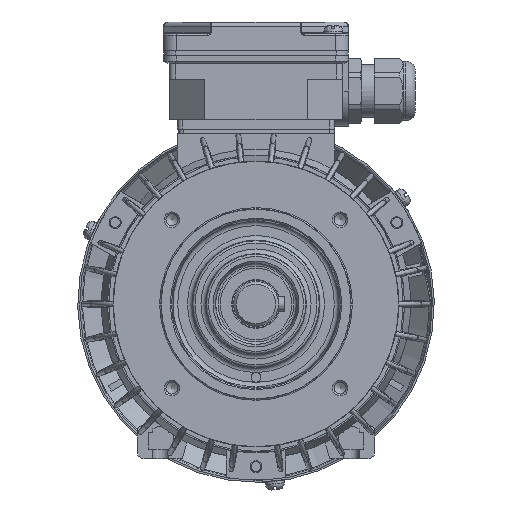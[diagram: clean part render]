
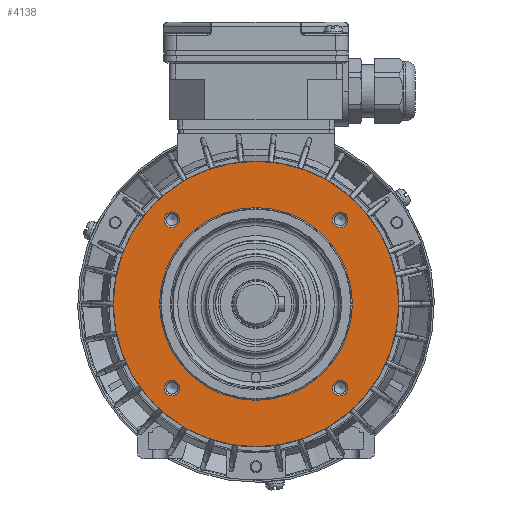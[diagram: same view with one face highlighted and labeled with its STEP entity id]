
A CAD part, left-side view. The second image highlights one B-rep face of the part: STEP entity #4138.
In plain terms, the highlighted planar face has unit normal (-1, 0, 0) as drawn and (0, -1, 0) by its records, which use the part's own axes.
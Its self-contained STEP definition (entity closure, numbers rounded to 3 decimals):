
#4138 = ADVANCED_FACE( '', ( #9790, #9791, #9792, #9793, #9794, #9795 ), #9796, .T. );
#9790 = FACE_BOUND( '', #23040, .T. );
#9791 = FACE_BOUND( '', #23041, .T. );
#9792 = FACE_BOUND( '', #23042, .T. );
#9793 = FACE_BOUND( '', #23043, .T. );
#9794 = FACE_BOUND( '', #23044, .T. );
#9795 = FACE_OUTER_BOUND( '', #23045, .T. );
#9796 = PLANE( '', #23046 );
#23040 = EDGE_LOOP( '', ( #50564 ) );
#23041 = EDGE_LOOP( '', ( #50565 ) );
#23042 = EDGE_LOOP( '', ( #50566 ) );
#23043 = EDGE_LOOP( '', ( #50567 ) );
#23044 = EDGE_LOOP( '', ( #50568 ) );
#23045 = EDGE_LOOP( '', ( #50569 ) );
#23046 = AXIS2_PLACEMENT_3D( '', #50570, #50571, #50572 );
#50564 = ORIENTED_EDGE( '', *, *, #70502, .T. );
#50565 = ORIENTED_EDGE( '', *, *, #70503, .T. );
#50566 = ORIENTED_EDGE( '', *, *, #70504, .T. );
#50567 = ORIENTED_EDGE( '', *, *, #70505, .T. );
#50568 = ORIENTED_EDGE( '', *, *, #69899, .T. );
#50569 = ORIENTED_EDGE( '', *, *, #70506, .T. );
#50570 = CARTESIAN_POINT( '', ( 0., 3., 40. ) );
#50571 = DIRECTION( '', ( 0., -1., 0. ) );
#50572 = DIRECTION( '', ( 0., 0., -1. ) );
#69899 = EDGE_CURVE( '', #82010, #82010, #82011, .F. );
#70502 = EDGE_CURVE( '', #82959, #82959, #82960, .F. );
#70503 = EDGE_CURVE( '', #82961, #82961, #82962, .F. );
#70504 = EDGE_CURVE( '', #82963, #82963, #82964, .F. );
#70505 = EDGE_CURVE( '', #82965, #82965, #82966, .F. );
#70506 = EDGE_CURVE( '', #82967, #82967, #82968, .T. );
#82010 = VERTEX_POINT( '', #101327 );
#82011 = CIRCLE( '', #101328, 40.5 );
#82959 = VERTEX_POINT( '', #104006 );
#82960 = CIRCLE( '', #104007, 3.3 );
#82961 = VERTEX_POINT( '', #104008 );
#82962 = CIRCLE( '', #104009, 3.3 );
#82963 = VERTEX_POINT( '', #104010 );
#82964 = CIRCLE( '', #104011, 3.3 );
#82965 = VERTEX_POINT( '', #104012 );
#82966 = CIRCLE( '', #104013, 3.3 );
#82967 = VERTEX_POINT( '', #104014 );
#82968 = CIRCLE( '', #104015, 60. );
#101327 = CARTESIAN_POINT( '', ( 0., 3., -40.5 ) );
#101328 = AXIS2_PLACEMENT_3D( '', #129633, #129634, #129635 );
#104006 = CARTESIAN_POINT( '', ( -35.355, 3., -38.655 ) );
#104007 = AXIS2_PLACEMENT_3D( '', #130388, #130389, #130390 );
#104008 = CARTESIAN_POINT( '', ( 35.355, 3., -38.655 ) );
#104009 = AXIS2_PLACEMENT_3D( '', #130391, #130392, #130393 );
#104010 = CARTESIAN_POINT( '', ( 35.355, 3., 32.055 ) );
#104011 = AXIS2_PLACEMENT_3D( '', #130394, #130395, #130396 );
#104012 = CARTESIAN_POINT( '', ( -35.355, 3., 32.055 ) );
#104013 = AXIS2_PLACEMENT_3D( '', #130397, #130398, #130399 );
#104014 = CARTESIAN_POINT( '', ( 0., 3., -60. ) );
#104015 = AXIS2_PLACEMENT_3D( '', #130400, #130401, #130402 );
#129633 = CARTESIAN_POINT( '', ( 0., 3., 0. ) );
#129634 = DIRECTION( '', ( 0., -1., 0. ) );
#129635 = DIRECTION( '', ( 0., 0., -1. ) );
#130388 = CARTESIAN_POINT( '', ( -35.355, 3., -35.355 ) );
#130389 = DIRECTION( '', ( 0., -1., 0. ) );
#130390 = DIRECTION( '', ( 0., 0., -1. ) );
#130391 = CARTESIAN_POINT( '', ( 35.355, 3., -35.355 ) );
#130392 = DIRECTION( '', ( 0., -1., 0. ) );
#130393 = DIRECTION( '', ( 0., 0., -1. ) );
#130394 = CARTESIAN_POINT( '', ( 35.355, 3., 35.355 ) );
#130395 = DIRECTION( '', ( 0., -1., 0. ) );
#130396 = DIRECTION( '', ( 0., 0., -1. ) );
#130397 = CARTESIAN_POINT( '', ( -35.355, 3., 35.355 ) );
#130398 = DIRECTION( '', ( 0., -1., 0. ) );
#130399 = DIRECTION( '', ( 0., 0., -1. ) );
#130400 = CARTESIAN_POINT( '', ( 0., 3., 0. ) );
#130401 = DIRECTION( '', ( 0., -1., 0. ) );
#130402 = DIRECTION( '', ( 0., 0., -1. ) );
